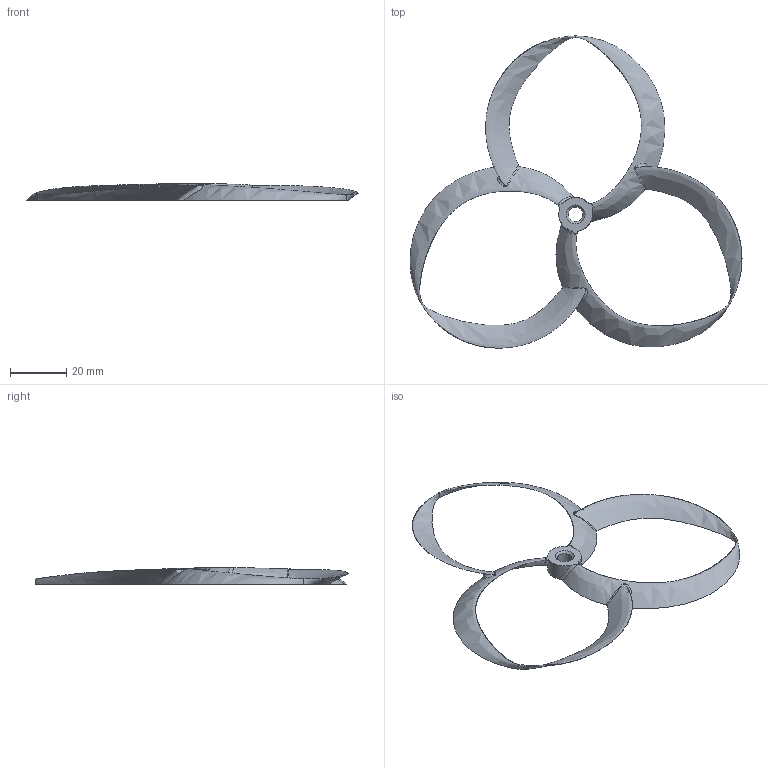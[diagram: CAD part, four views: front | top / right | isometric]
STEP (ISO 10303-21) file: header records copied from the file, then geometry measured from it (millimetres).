
FILE_DESCRIPTION(/* description */ (''),/* implementation_level */ '2;1');
FILE_NAME(/* name */ 'V3 Tri-Loop 5-inch.step',/* time_stamp */ '2023-02-14T12:13:51+07:00',/* author */ (''),/* organization */ (''),/* preprocessor_version */ 'ST-DEVELOPER v19.2',/* originating_system */ 'Autodesk Translation Framework v11.17.0.187',/* authorisation */ '');
FILE_SCHEMA (('AUTOMOTIVE_DESIGN { 1 0 10303 214 3 1 1 }'));
Length unit declared in the file: millimetre
Products named in the file (1): V3 Tri-Loop 5"
Bounding box: 118.17 x 111.11 x 6 mm (x, y, z)
Volume: 3163 mm3; surface area: 7837.6 mm2
Topology: 1 solids, 1 shells, 28 faces, 87 edges, 55 vertices
Faces by surface type: bspline 20, cylinder 4, cone 2, plane 2
Full cylindrical faces by diameter (mm): 5.2 x1
Entity records: 5777 total; most frequent: CARTESIAN_POINT 5143, ORIENTED_EDGE 174, EDGE_CURVE 87, B_SPLINE_CURVE_WITH_KNOTS 56, DIRECTION 56, VERTEX_POINT 55, EDGE_LOOP 30, FACE_OUTER_BOUND 28
